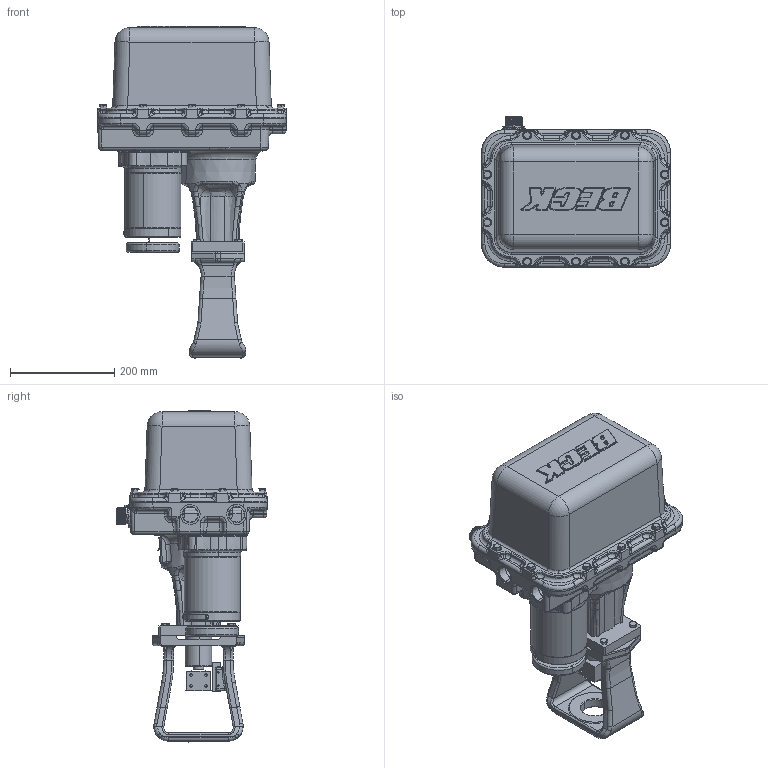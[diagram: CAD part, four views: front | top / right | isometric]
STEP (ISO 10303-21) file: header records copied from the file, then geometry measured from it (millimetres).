
FILE_DESCRIPTION (( 'STEP AP203' ), '1' );
FILE_NAME ('18-2910-01.STEP', '2011-06-24T15:52:30', ( '' ), ( '' ), 'SwSTEP 2.0', 'SolidWorks 2009', '' );
FILE_SCHEMA (( 'CONFIG_CONTROL_DESIGN' ));
Products named in the file (1): 18-2910-01
Bounding box: 361.73 x 288.11 x 635.63 mm (x, y, z)
Surface area: 857518 mm2 (no closed solid volume)
Topology: 0 solids, 190 shells, 2149 faces, 9650 edges, 7483 vertices
Faces by surface type: cylinder 666, plane 626, bspline 400, torus 213, cone 166, sphere 78
Entity records: 194985 total; most frequent: CARTESIAN_POINT 123609, ORIENTED_EDGE 13672, DIRECTION 12937, EDGE_CURVE 9596, VERTEX_POINT 7481, LINE 4465, VECTOR 4465, AXIS2_PLACEMENT_3D 4236
